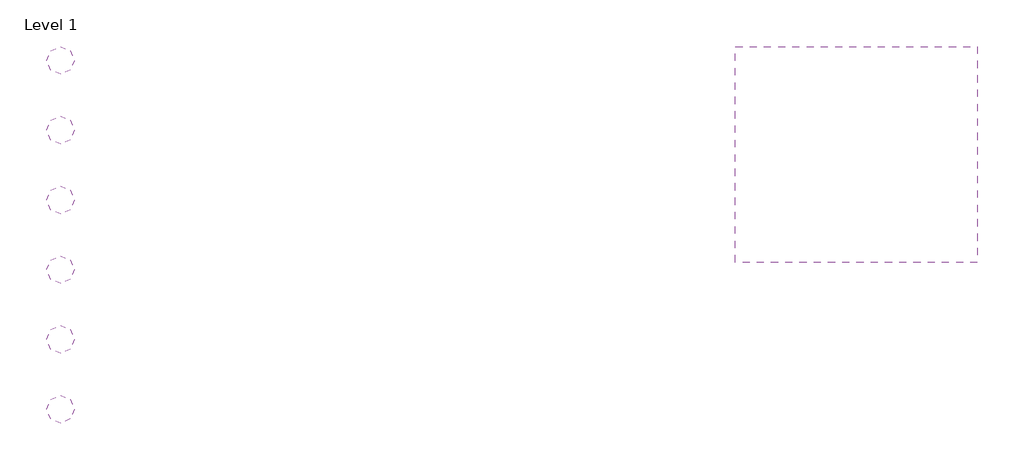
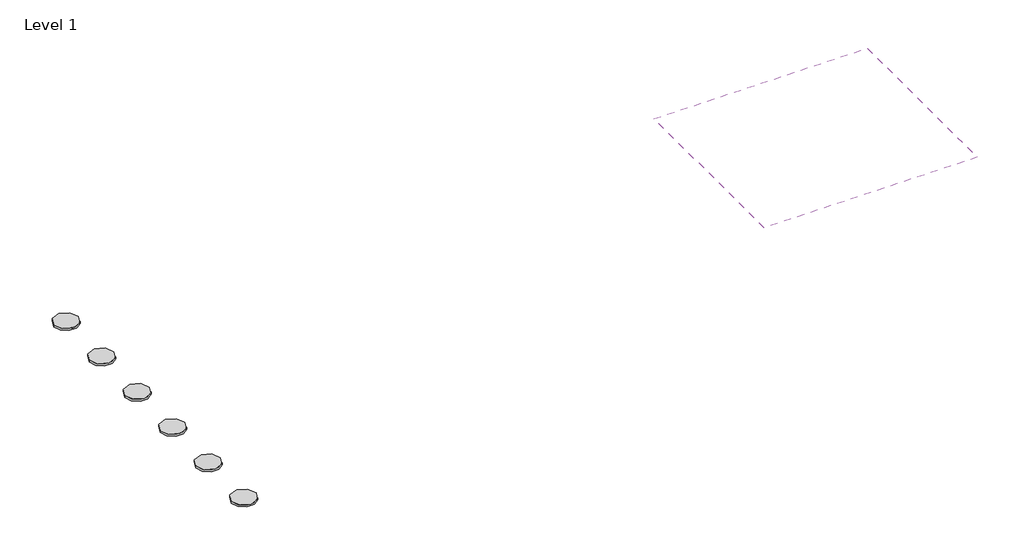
# One storey, incomplete: 6 proxies, 1 covering.
"""IFC4 building model written with IfcOpenShell, lengths in millimetres."""

from ifc_helpers import new_model, si_unit, frame, origin, place, context, project, spatial, polyline, outline, extrude, transform, mapped, element, save
from components import materialmodel_materialmodel_f1c05be1

model = new_model("IFC4")

# Units and contexts
model_context = context("Model", 3, world=origin())
ifc_project = project(units=[si_unit("LENGTHUNIT", "METRE", prefix="MILLI")], contexts=[model_context])

# Site, building, storey
site = spatial("IfcSite", under=ifc_project)
building = spatial("IfcBuilding", under=site)
storey = spatial("IfcBuildingStorey", under=building, Name="Level 1", Elevation=0.0)

# Proxies
placement = place(None, origin())
materialmodel_materialmodel_shape = materialmodel_materialmodel_f1c05be1(model_context)
element("IfcBuildingElementProxy", 1, Name="MaterialModel : MaterialModel", ObjectType="MaterialModel : MaterialModel", at=placement, inside=storey, context=model_context, shape_type="MappedRepresentation", body=[
    mapped(materialmodel_materialmodel_shape, transform((300.0, 9266.8492987, 2400.0), x_axis=(1.0, 0.0, 0.0), y_axis=(0.0, 1.0, 0.0), z_axis=(0.0, 0.0, 1.0))),
])
element("IfcBuildingElementProxy", 2, Name="MaterialModel : MaterialModel", ObjectType="MaterialModel : MaterialModel", at=placement, inside=storey, context=model_context, shape_type="MappedRepresentation", body=[
    mapped(materialmodel_materialmodel_shape, transform((300.0, 7766.8492987, 2400.0), x_axis=(1.0, 0.0, 0.0), y_axis=(0.0, 1.0, 0.0), z_axis=(0.0, 0.0, 1.0))),
])
element("IfcBuildingElementProxy", 3, Name="MaterialModel : MaterialModel", ObjectType="MaterialModel : MaterialModel", at=placement, inside=storey, context=model_context, shape_type="MappedRepresentation", body=[
    mapped(materialmodel_materialmodel_shape, transform((300.0, 6266.8492987, 2400.0), x_axis=(1.0, 0.0, 0.0), y_axis=(0.0, 1.0, 0.0), z_axis=(0.0, 0.0, 1.0))),
])
element("IfcBuildingElementProxy", 4, Name="MaterialModel : MaterialModel", ObjectType="MaterialModel : MaterialModel", at=placement, inside=storey, context=model_context, shape_type="MappedRepresentation", body=[
    mapped(materialmodel_materialmodel_shape, transform((300.0, 4766.8492987, 2400.0), x_axis=(1.0, 0.0, 0.0), y_axis=(0.0, 1.0, 0.0), z_axis=(0.0, 0.0, 1.0))),
])
element("IfcBuildingElementProxy", 5, Name="MaterialModel : MaterialModel", ObjectType="MaterialModel : MaterialModel", at=placement, inside=storey, context=model_context, shape_type="MappedRepresentation", body=[
    mapped(materialmodel_materialmodel_shape, transform((300.0, 3266.8492987, 2400.0), x_axis=(1.0, 0.0, 0.0), y_axis=(0.0, 1.0, 0.0), z_axis=(0.0, 0.0, 1.0))),
])
element("IfcBuildingElementProxy", 6, Name="MaterialModel : MaterialModel", ObjectType="MaterialModel : MaterialModel", at=placement, inside=storey, context=model_context, shape_type="MappedRepresentation", body=[
    mapped(materialmodel_materialmodel_shape, transform((300.0, 1766.8492987, 2400.0), x_axis=(1.0, 0.0, 0.0), y_axis=(0.0, 1.0, 0.0), z_axis=(0.0, 0.0, 1.0))),
])

# Covering
element("IfcCovering", 7, ObjectType="Suspendable 40 mm absorbers", at=placement, inside=storey, context=model_context, shape_type="SweptSolid", body=[
    extrude(outline(polyline([(20000.0, 9566.8492987), (20000.0, 4924.5247418), (14799.6423998, 4924.5247418), (14799.6423998, 9566.8492987), (20000.0, 9566.8492987)])), frame((0.0, 0.0, 2400.0), z_axis=(0.0, 0.0, 1.0), x_axis=(1.0, 0.0, 0.0)), (0.0, 0.0, 1.0), 40.0),
])

save(model, "model.ifc")
